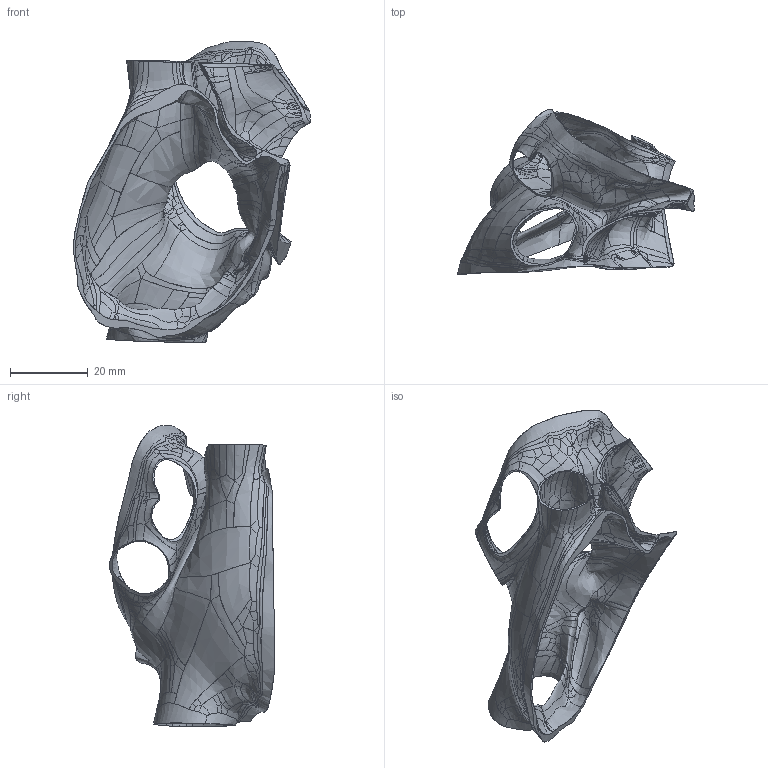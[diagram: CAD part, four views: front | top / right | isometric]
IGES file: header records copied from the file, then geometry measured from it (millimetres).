
Global section: file name: C:\FDA Main\FDA-Septal-Models\8909651\Thin area fixes\8909651.phase.90.2.igs; native system: Rhinoceros ( Mar  9 2011 ); preprocessor: Trout Lake IGES 012 Mar  9 2011; date: 120615.192232; units: millimetre
Bounding box: 61.01 x 42.62 x 77.41 mm (x, y, z)
Surface area: 16234.5 mm2 (no closed solid volume)
Topology: 0 solids, 0 shells, 1124 faces, 4492 edges, 4488 vertices
Faces by surface type: bspline 1124
